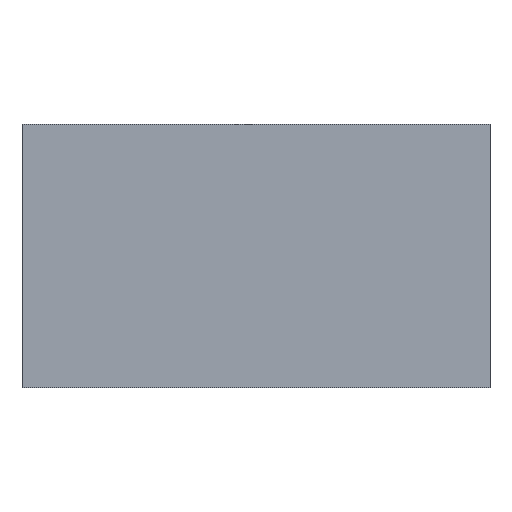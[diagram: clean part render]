
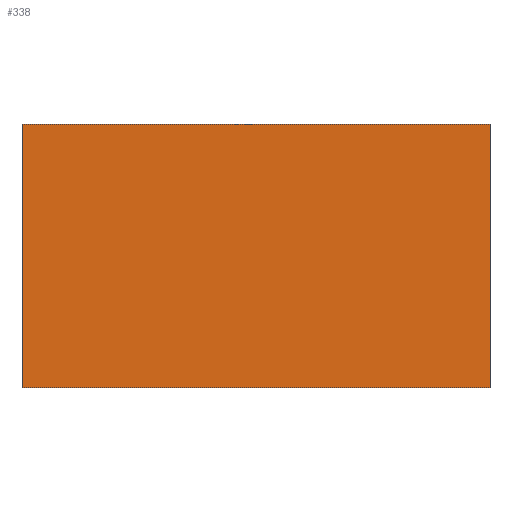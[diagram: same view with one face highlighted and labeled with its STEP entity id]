
A CAD part, top view. The second image highlights one B-rep face of the part: STEP entity #338.
In plain terms, the highlighted planar face has unit normal (0, 0, 1).
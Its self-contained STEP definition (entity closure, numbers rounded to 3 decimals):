
#24 = VERTEX_POINT('',#25);
#25 = CARTESIAN_POINT('',(22.,38.,28.));
#32 = PLANE('',#33);
#33 = AXIS2_PLACEMENT_3D('',#34,#35,#36);
#34 = CARTESIAN_POINT('',(22.,38.,25.));
#35 = DIRECTION('',(1.,0.,-0.));
#36 = DIRECTION('',(0.,0.,1.));
#44 = PLANE('',#45);
#45 = AXIS2_PLACEMENT_3D('',#46,#47,#48);
#46 = CARTESIAN_POINT('',(22.,38.,25.));
#47 = DIRECTION('',(-0.,1.,0.));
#48 = DIRECTION('',(0.,0.,1.));
#85 = VERTEX_POINT('',#86);
#86 = CARTESIAN_POINT('',(22.,56.,28.));
#100 = PLANE('',#101);
#101 = AXIS2_PLACEMENT_3D('',#102,#103,#104);
#102 = CARTESIAN_POINT('',(22.,56.,25.));
#103 = DIRECTION('',(-0.,1.,0.));
#104 = DIRECTION('',(0.,0.,1.));
#112 = EDGE_CURVE('',#24,#85,#113,.T.);
#113 = SURFACE_CURVE('',#114,(#118,#125),.PCURVE_S1.);
#114 = LINE('',#115,#116);
#115 = CARTESIAN_POINT('',(22.,38.,28.));
#116 = VECTOR('',#117,1.);
#117 = DIRECTION('',(-0.,1.,0.));
#118 = PCURVE('',#32,#119);
#119 = DEFINITIONAL_REPRESENTATION('',(#120),#124);
#120 = LINE('',#121,#122);
#121 = CARTESIAN_POINT('',(3.,0.));
#122 = VECTOR('',#123,1.);
#123 = DIRECTION('',(0.,-1.));
#124 = ( GEOMETRIC_REPRESENTATION_CONTEXT(2) 
PARAMETRIC_REPRESENTATION_CONTEXT() REPRESENTATION_CONTEXT('2D SPACE',''
  ) );
#125 = PCURVE('',#126,#131);
#126 = PLANE('',#127);
#127 = AXIS2_PLACEMENT_3D('',#128,#129,#130);
#128 = CARTESIAN_POINT('',(22.,38.,28.));
#129 = DIRECTION('',(0.,0.,1.));
#130 = DIRECTION('',(1.,0.,-0.));
#131 = DEFINITIONAL_REPRESENTATION('',(#132),#136);
#132 = LINE('',#133,#134);
#133 = CARTESIAN_POINT('',(0.,0.));
#134 = VECTOR('',#135,1.);
#135 = DIRECTION('',(0.,1.));
#136 = ( GEOMETRIC_REPRESENTATION_CONTEXT(2) 
PARAMETRIC_REPRESENTATION_CONTEXT() REPRESENTATION_CONTEXT('2D SPACE',''
  ) );
#144 = VERTEX_POINT('',#145);
#145 = CARTESIAN_POINT('',(54.,38.,28.));
#152 = PLANE('',#153);
#153 = AXIS2_PLACEMENT_3D('',#154,#155,#156);
#154 = CARTESIAN_POINT('',(54.,38.,25.));
#155 = DIRECTION('',(1.,0.,-0.));
#156 = DIRECTION('',(0.,0.,1.));
#195 = VERTEX_POINT('',#196);
#196 = CARTESIAN_POINT('',(54.,56.,28.));
#217 = EDGE_CURVE('',#144,#195,#218,.T.);
#218 = SURFACE_CURVE('',#219,(#223,#230),.PCURVE_S1.);
#219 = LINE('',#220,#221);
#220 = CARTESIAN_POINT('',(54.,38.,28.));
#221 = VECTOR('',#222,1.);
#222 = DIRECTION('',(-0.,1.,0.));
#223 = PCURVE('',#152,#224);
#224 = DEFINITIONAL_REPRESENTATION('',(#225),#229);
#225 = LINE('',#226,#227);
#226 = CARTESIAN_POINT('',(3.,0.));
#227 = VECTOR('',#228,1.);
#228 = DIRECTION('',(0.,-1.));
#229 = ( GEOMETRIC_REPRESENTATION_CONTEXT(2) 
PARAMETRIC_REPRESENTATION_CONTEXT() REPRESENTATION_CONTEXT('2D SPACE',''
  ) );
#230 = PCURVE('',#126,#231);
#231 = DEFINITIONAL_REPRESENTATION('',(#232),#236);
#232 = LINE('',#233,#234);
#233 = CARTESIAN_POINT('',(32.,0.));
#234 = VECTOR('',#235,1.);
#235 = DIRECTION('',(0.,1.));
#236 = ( GEOMETRIC_REPRESENTATION_CONTEXT(2) 
PARAMETRIC_REPRESENTATION_CONTEXT() REPRESENTATION_CONTEXT('2D SPACE',''
  ) );
#263 = EDGE_CURVE('',#24,#144,#264,.T.);
#264 = SURFACE_CURVE('',#265,(#269,#276),.PCURVE_S1.);
#265 = LINE('',#266,#267);
#266 = CARTESIAN_POINT('',(22.,38.,28.));
#267 = VECTOR('',#268,1.);
#268 = DIRECTION('',(1.,0.,-0.));
#269 = PCURVE('',#44,#270);
#270 = DEFINITIONAL_REPRESENTATION('',(#271),#275);
#271 = LINE('',#272,#273);
#272 = CARTESIAN_POINT('',(3.,0.));
#273 = VECTOR('',#274,1.);
#274 = DIRECTION('',(0.,1.));
#275 = ( GEOMETRIC_REPRESENTATION_CONTEXT(2) 
PARAMETRIC_REPRESENTATION_CONTEXT() REPRESENTATION_CONTEXT('2D SPACE',''
  ) );
#276 = PCURVE('',#126,#277);
#277 = DEFINITIONAL_REPRESENTATION('',(#278),#282);
#278 = LINE('',#279,#280);
#279 = CARTESIAN_POINT('',(0.,0.));
#280 = VECTOR('',#281,1.);
#281 = DIRECTION('',(1.,0.));
#282 = ( GEOMETRIC_REPRESENTATION_CONTEXT(2) 
PARAMETRIC_REPRESENTATION_CONTEXT() REPRESENTATION_CONTEXT('2D SPACE',''
  ) );
#310 = EDGE_CURVE('',#85,#195,#311,.T.);
#311 = SURFACE_CURVE('',#312,(#316,#323),.PCURVE_S1.);
#312 = LINE('',#313,#314);
#313 = CARTESIAN_POINT('',(22.,56.,28.));
#314 = VECTOR('',#315,1.);
#315 = DIRECTION('',(1.,0.,-0.));
#316 = PCURVE('',#100,#317);
#317 = DEFINITIONAL_REPRESENTATION('',(#318),#322);
#318 = LINE('',#319,#320);
#319 = CARTESIAN_POINT('',(3.,0.));
#320 = VECTOR('',#321,1.);
#321 = DIRECTION('',(0.,1.));
#322 = ( GEOMETRIC_REPRESENTATION_CONTEXT(2) 
PARAMETRIC_REPRESENTATION_CONTEXT() REPRESENTATION_CONTEXT('2D SPACE',''
  ) );
#323 = PCURVE('',#126,#324);
#324 = DEFINITIONAL_REPRESENTATION('',(#325),#329);
#325 = LINE('',#326,#327);
#326 = CARTESIAN_POINT('',(0.,18.));
#327 = VECTOR('',#328,1.);
#328 = DIRECTION('',(1.,0.));
#329 = ( GEOMETRIC_REPRESENTATION_CONTEXT(2) 
PARAMETRIC_REPRESENTATION_CONTEXT() REPRESENTATION_CONTEXT('2D SPACE',''
  ) );
#338 = ADVANCED_FACE('',(#339),#126,.T.);
#339 = FACE_BOUND('',#340,.T.);
#340 = EDGE_LOOP('',(#341,#342,#343,#344));
#341 = ORIENTED_EDGE('',*,*,#112,.F.);
#342 = ORIENTED_EDGE('',*,*,#263,.T.);
#343 = ORIENTED_EDGE('',*,*,#217,.T.);
#344 = ORIENTED_EDGE('',*,*,#310,.F.);
